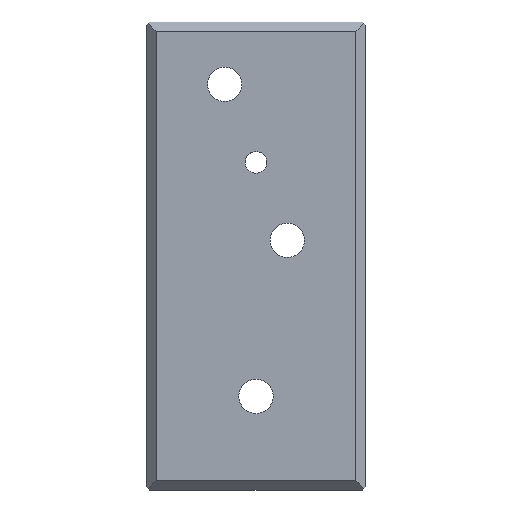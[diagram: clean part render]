
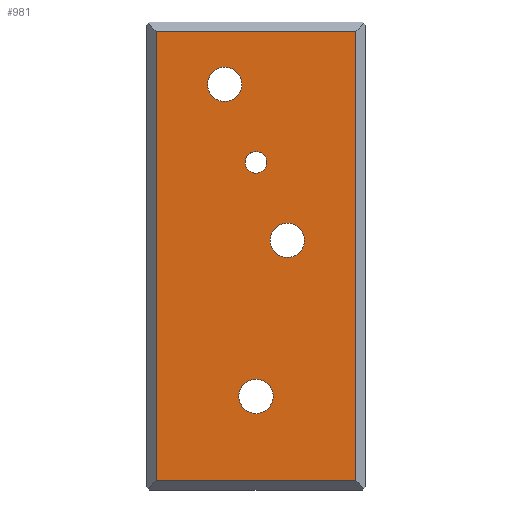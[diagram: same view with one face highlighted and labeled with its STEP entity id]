
A CAD part, front view. The second image highlights one B-rep face of the part: STEP entity #981.
In plain terms, the highlighted planar face has unit normal (0, -1, 0).
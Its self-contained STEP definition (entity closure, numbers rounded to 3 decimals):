
#15=FACE_BOUND('',#207,.T.);
#16=FACE_BOUND('',#208,.T.);
#17=FACE_BOUND('',#209,.T.);
#18=FACE_BOUND('',#210,.T.);
#42=CIRCLE('',#1085,5.5);
#43=CIRCLE('',#1086,5.5);
#44=CIRCLE('',#1087,5.5);
#45=CIRCLE('',#1088,3.5);
#113=PLANE('',#1084);
#157=FACE_OUTER_BOUND('',#206,.T.);
#206=EDGE_LOOP('',(#839,#840,#841,#842));
#207=EDGE_LOOP('',(#843));
#208=EDGE_LOOP('',(#844));
#209=EDGE_LOOP('',(#845));
#210=EDGE_LOOP('',(#846));
#271=LINE('',#1656,#345);
#283=LINE('',#1680,#357);
#287=LINE('',#1686,#361);
#290=LINE('',#1692,#364);
#345=VECTOR('',#1283,10.);
#357=VECTOR('',#1303,10.);
#361=VECTOR('',#1309,10.);
#364=VECTOR('',#1318,10.);
#449=VERTEX_POINT('',#1653);
#450=VERTEX_POINT('',#1655);
#457=VERTEX_POINT('',#1677);
#458=VERTEX_POINT('',#1679);
#460=VERTEX_POINT('',#1695);
#461=VERTEX_POINT('',#1697);
#462=VERTEX_POINT('',#1699);
#463=VERTEX_POINT('',#1701);
#574=EDGE_CURVE('',#449,#450,#271,.T.);
#586=EDGE_CURVE('',#457,#458,#283,.T.);
#590=EDGE_CURVE('',#450,#457,#287,.T.);
#593=EDGE_CURVE('',#458,#449,#290,.T.);
#594=EDGE_CURVE('',#460,#460,#42,.T.);
#595=EDGE_CURVE('',#461,#461,#43,.T.);
#596=EDGE_CURVE('',#462,#462,#44,.T.);
#597=EDGE_CURVE('',#463,#463,#45,.T.);
#839=ORIENTED_EDGE('',*,*,#593,.F.);
#840=ORIENTED_EDGE('',*,*,#586,.F.);
#841=ORIENTED_EDGE('',*,*,#590,.F.);
#842=ORIENTED_EDGE('',*,*,#574,.F.);
#843=ORIENTED_EDGE('',*,*,#594,.T.);
#844=ORIENTED_EDGE('',*,*,#595,.T.);
#845=ORIENTED_EDGE('',*,*,#596,.T.);
#846=ORIENTED_EDGE('',*,*,#597,.T.);
#981=ADVANCED_FACE('',(#157,#15,#16,#17,#18),#113,.F.);
#1084=AXIS2_PLACEMENT_3D('',#1694,#1321,#1322);
#1085=AXIS2_PLACEMENT_3D('',#1696,#1323,#1324);
#1086=AXIS2_PLACEMENT_3D('',#1698,#1325,#1326);
#1087=AXIS2_PLACEMENT_3D('',#1700,#1327,#1328);
#1088=AXIS2_PLACEMENT_3D('',#1702,#1329,#1330);
#1283=DIRECTION('',(0.,0.,-1.));
#1303=DIRECTION('',(0.,0.,1.));
#1309=DIRECTION('',(-1.,0.,0.));
#1318=DIRECTION('',(1.,0.,0.));
#1321=DIRECTION('center_axis',(0.,1.,0.));
#1322=DIRECTION('ref_axis',(0.,0.,1.));
#1323=DIRECTION('center_axis',(0.,1.,0.));
#1324=DIRECTION('ref_axis',(1.,0.,0.));
#1325=DIRECTION('center_axis',(0.,1.,0.));
#1326=DIRECTION('ref_axis',(1.,0.,0.));
#1327=DIRECTION('center_axis',(0.,1.,0.));
#1328=DIRECTION('ref_axis',(1.,0.,0.));
#1329=DIRECTION('center_axis',(0.,1.,0.));
#1330=DIRECTION('ref_axis',(1.,0.,0.));
#1653=CARTESIAN_POINT('',(67.,0.,147.));
#1655=CARTESIAN_POINT('',(67.,0.,3.));
#1656=CARTESIAN_POINT('',(67.,0.,112.5));
#1677=CARTESIAN_POINT('',(3.,0.,3.));
#1679=CARTESIAN_POINT('',(3.,0.,147.));
#1680=CARTESIAN_POINT('',(3.,0.,37.5));
#1686=CARTESIAN_POINT('',(52.5,0.,3.));
#1692=CARTESIAN_POINT('',(17.5,0.,147.));
#1694=CARTESIAN_POINT('Origin',(35.,0.,75.));
#1695=CARTESIAN_POINT('',(29.5,0.,30.));
#1696=CARTESIAN_POINT('Origin',(35.,0.,30.));
#1697=CARTESIAN_POINT('',(19.5,0.,130.));
#1698=CARTESIAN_POINT('Origin',(25.,0.,130.));
#1699=CARTESIAN_POINT('',(39.5,0.,80.));
#1700=CARTESIAN_POINT('Origin',(45.,0.,80.));
#1701=CARTESIAN_POINT('',(31.5,0.,105.));
#1702=CARTESIAN_POINT('Origin',(35.,0.,105.));
